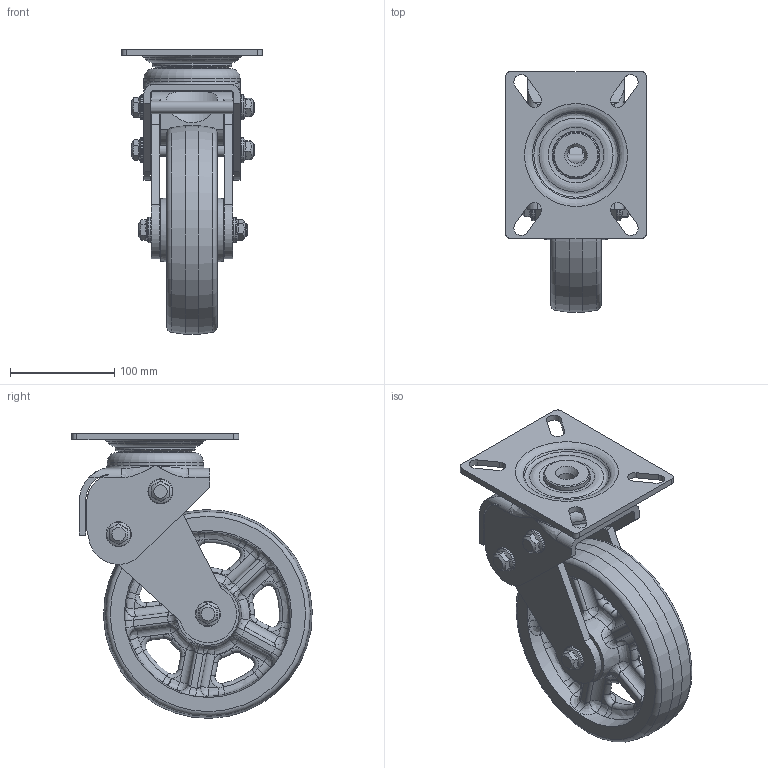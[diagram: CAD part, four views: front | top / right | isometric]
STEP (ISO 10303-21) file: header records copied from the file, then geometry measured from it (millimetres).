
FILE_DESCRIPTION((''),'2;1');
FILE_NAME('C:\Documents and Settings\Administrator\바탕 화면\3D STEP\GSST-SERIES\GSST-200W\GSST-200WA-SF.stp','2010-12-27T14:35:55',('Administrator'),(''),'Autodesk Inventor 2009','Autodesk Inventor 2009','');
FILE_SCHEMA(('AUTOMOTIVE_DESIGN { 1 0 10303 214 1 1 1 1 }'));
Length unit declared in the file: millimetre
Products named in the file (1): GSST-200WA-SF
Bounding box: 135 x 230.45 x 272.77 mm (x, y, z)
Volume: 1548447.4 mm3; surface area: 321696.1 mm2
Topology: 6 solids, 6 shells, 649 faces, 1653 edges, 1010 vertices
Faces by surface type: bspline 227, plane 195, cylinder 130, torus 62, cone 35
Full cylindrical faces by diameter (mm): 10.1 x2, 12 x5, 12.1 x4, 16 x1, 21.5 x1, 24 x6, 29.5 x1, 30.5 x2, 31 x1, 35 x2, 44 x1, 47 x1, 72.291 x1, 74.9 x1, 76.5 x1, 80 x1, 92 x1, 200 x1
Entity records: 31881 total; most frequent: CARTESIAN_POINT 17902, ORIENTED_EDGE 2990, DIRECTION 2664, EDGE_CURVE 1495, AXIS2_PLACEMENT_3D 1125, VERTEX_POINT 971, EDGE_LOOP 818, CIRCLE 691
